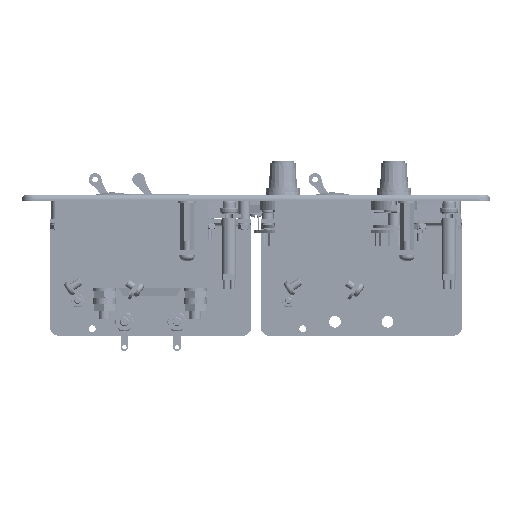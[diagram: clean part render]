
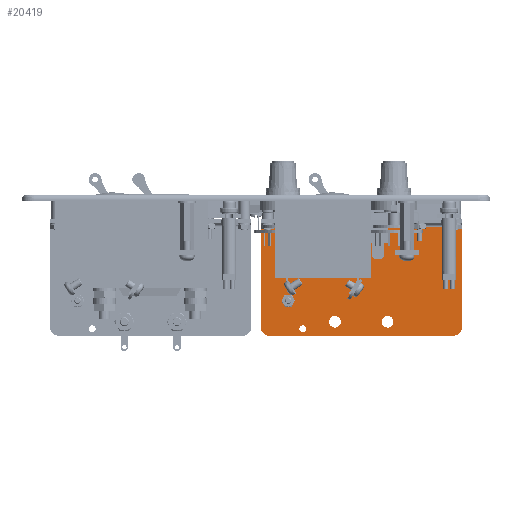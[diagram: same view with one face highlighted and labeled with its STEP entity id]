
A CAD part, front view. The second image highlights one B-rep face of the part: STEP entity #20419.
In plain terms, the highlighted planar face has unit normal (0, -1, 0) as drawn and (0, 1, 0) by its records, which use the part's own axes.
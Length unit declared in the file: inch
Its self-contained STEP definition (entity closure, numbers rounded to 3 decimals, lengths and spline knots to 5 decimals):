
#20061=CARTESIAN_POINT('',(-1.17222,-1.53204,3.3685));
#20062=VERTEX_POINT('',#20061);
#20078=CARTESIAN_POINT('',(-1.17222,-1.53204,3.5155));
#20079=VERTEX_POINT('',#20078);
#20086=CARTESIAN_POINT('',(-1.17222,-1.53204,3.442));
#20087=DIRECTION('',(0.0,-1.0,0.0));
#20088=DIRECTION('',(0.0,0.0,-1.0));
#20089=AXIS2_PLACEMENT_3D('',#20086,#20087,#20088);
#20090=CIRCLE('',#20089,0.0735);
#20091=EDGE_CURVE('',#20062,#20079,#20090,.T.);
#20103=CARTESIAN_POINT('',(-1.17222,-1.53204,1.6185));
#20104=VERTEX_POINT('',#20103);
#20120=CARTESIAN_POINT('',(-1.17222,-1.53204,1.7655));
#20121=VERTEX_POINT('',#20120);
#20128=CARTESIAN_POINT('',(-1.17222,-1.53204,1.692));
#20129=DIRECTION('',(0.0,-1.0,0.0));
#20130=DIRECTION('',(0.0,0.0,-1.0));
#20131=AXIS2_PLACEMENT_3D('',#20128,#20129,#20130);
#20132=CIRCLE('',#20131,0.0735);
#20133=EDGE_CURVE('',#20104,#20121,#20132,.T.);
#20145=CARTESIAN_POINT('',(-1.48422,-1.53204,2.7575));
#20146=VERTEX_POINT('',#20145);
#20162=CARTESIAN_POINT('',(-1.48422,-1.53204,2.9265));
#20163=VERTEX_POINT('',#20162);
#20170=CARTESIAN_POINT('',(-1.48422,-1.53204,2.842));
#20171=DIRECTION('',(0.0,-1.0,0.0));
#20172=DIRECTION('',(0.0,0.0,-1.0));
#20173=AXIS2_PLACEMENT_3D('',#20170,#20171,#20172);
#20174=CIRCLE('',#20173,0.0845);
#20175=EDGE_CURVE('',#20146,#20163,#20174,.T.);
#20187=CARTESIAN_POINT('',(-0.48522,-1.53204,3.167));
#20188=VERTEX_POINT('',#20187);
#20204=CARTESIAN_POINT('',(-0.48522,-1.53204,3.417));
#20205=VERTEX_POINT('',#20204);
#20212=CARTESIAN_POINT('',(-0.48522,-1.53204,3.292));
#20213=DIRECTION('',(0.0,-1.0,0.0));
#20214=DIRECTION('',(0.0,0.0,-1.0));
#20215=AXIS2_PLACEMENT_3D('',#20212,#20213,#20214);
#20216=CIRCLE('',#20215,0.125);
#20217=EDGE_CURVE('',#20188,#20205,#20216,.T.);
#20229=CARTESIAN_POINT('',(0.63978,-1.53204,3.167));
#20230=VERTEX_POINT('',#20229);
#20246=CARTESIAN_POINT('',(0.63978,-1.53204,3.417));
#20247=VERTEX_POINT('',#20246);
#20254=CARTESIAN_POINT('',(0.63978,-1.53204,3.292));
#20255=DIRECTION('',(0.0,-1.0,0.0));
#20256=DIRECTION('',(0.0,0.0,-1.0));
#20257=AXIS2_PLACEMENT_3D('',#20254,#20255,#20256);
#20258=CIRCLE('',#20257,0.125);
#20259=EDGE_CURVE('',#20230,#20247,#20258,.T.);
#20269=CARTESIAN_POINT('',(-1.88472,-1.53204,3.592));
#20270=VERTEX_POINT('',#20269);
#20271=CARTESIAN_POINT('',(-2.07222,-1.53204,3.4045));
#20272=VERTEX_POINT('',#20271);
#20273=CARTESIAN_POINT('',(-1.88472,-1.53204,3.4045));
#20274=DIRECTION('',(0.0,-1.,0.0));
#20275=DIRECTION('',(-0.707,0.0,0.707));
#20276=AXIS2_PLACEMENT_3D('',#20273,#20274,#20275);
#20277=CIRCLE('',#20276,0.1875);
#20278=EDGE_CURVE('',#20270,#20272,#20277,.T.);
#20306=CARTESIAN_POINT('',(0.07778,-1.53204,2.342));
#20307=DIRECTION('',(0.0,1.0,0.0));
#20308=DIRECTION('',(0.0,0.0,1.0));
#20309=AXIS2_PLACEMENT_3D('',#20306,#20307,#20308);
#20310=PLANE('',#20309);
#20311=ORIENTED_EDGE('',*,*,#20278,.F.);
#20312=CARTESIAN_POINT('',(2.04028,-1.53204,3.592));
#20313=VERTEX_POINT('',#20312);
#20314=CARTESIAN_POINT('',(2.04028,-1.53204,3.592));
#20315=DIRECTION('',(-1.0,0.0,0.0));
#20316=VECTOR('',#20315,3.925);
#20317=LINE('',#20314,#20316);
#20318=EDGE_CURVE('',#20313,#20270,#20317,.T.);
#20319=ORIENTED_EDGE('',*,*,#20318,.F.);
#20320=CARTESIAN_POINT('',(2.22778,-1.53204,3.4045));
#20321=VERTEX_POINT('',#20320);
#20322=CARTESIAN_POINT('',(2.04028,-1.53204,3.4045));
#20323=DIRECTION('',(0.0,-1.,0.0));
#20324=DIRECTION('',(0.707,0.0,0.707));
#20325=AXIS2_PLACEMENT_3D('',#20322,#20323,#20324);
#20326=CIRCLE('',#20325,0.1875);
#20327=EDGE_CURVE('',#20321,#20313,#20326,.T.);
#20328=ORIENTED_EDGE('',*,*,#20327,.F.);
#20329=CARTESIAN_POINT('',(2.22778,-1.53204,1.272));
#20330=VERTEX_POINT('',#20329);
#20331=CARTESIAN_POINT('',(2.22778,-1.53204,1.272));
#20332=DIRECTION('',(0.0,0.0,1.0));
#20333=VECTOR('',#20332,2.1325);
#20334=LINE('',#20331,#20333);
#20335=EDGE_CURVE('',#20330,#20321,#20334,.T.);
#20336=ORIENTED_EDGE('',*,*,#20335,.F.);
#20337=CARTESIAN_POINT('',(0.70028,-1.53204,1.272));
#20338=VERTEX_POINT('',#20337);
#20339=CARTESIAN_POINT('',(0.70028,-1.53204,1.272));
#20340=DIRECTION('',(1.0,0.0,0.0));
#20341=VECTOR('',#20340,1.5275);
#20342=LINE('',#20339,#20341);
#20343=EDGE_CURVE('',#20338,#20330,#20342,.T.);
#20344=ORIENTED_EDGE('',*,*,#20343,.F.);
#20345=CARTESIAN_POINT('',(-0.59472,-1.53204,1.272));
#20346=VERTEX_POINT('',#20345);
#20347=CARTESIAN_POINT('',(0.70028,-1.53204,1.272));
#20348=DIRECTION('',(-1.0,0.0,0.0));
#20349=VECTOR('',#20348,1.295);
#20350=LINE('',#20347,#20349);
#20351=EDGE_CURVE('',#20338,#20346,#20350,.T.);
#20352=ORIENTED_EDGE('',*,*,#20351,.T.);
#20353=CARTESIAN_POINT('',(-2.07222,-1.53204,1.272));
#20354=VERTEX_POINT('',#20353);
#20355=CARTESIAN_POINT('',(-2.07222,-1.53204,1.272));
#20356=DIRECTION('',(1.0,0.0,0.0));
#20357=VECTOR('',#20356,1.4775);
#20358=LINE('',#20355,#20357);
#20359=EDGE_CURVE('',#20354,#20346,#20358,.T.);
#20360=ORIENTED_EDGE('',*,*,#20359,.F.);
#20361=CARTESIAN_POINT('',(-2.07222,-1.53204,3.4045));
#20362=DIRECTION('',(0.0,0.0,-1.0));
#20363=VECTOR('',#20362,2.1325);
#20364=LINE('',#20361,#20363);
#20365=EDGE_CURVE('',#20272,#20354,#20364,.T.);
#20366=ORIENTED_EDGE('',*,*,#20365,.F.);
#20367=EDGE_LOOP('',(#20311,#20319,#20328,#20336,#20344,#20352,#20360,#20366));
#20368=FACE_OUTER_BOUND('',#20367,.T.);
#20369=ORIENTED_EDGE('',*,*,#20259,.T.);
#20370=CARTESIAN_POINT('',(0.63978,-1.53204,3.292));
#20371=DIRECTION('',(0.0,-1.0,0.0));
#20372=DIRECTION('',(0.0,0.0,-1.0));
#20373=AXIS2_PLACEMENT_3D('',#20370,#20371,#20372);
#20374=CIRCLE('',#20373,0.125);
#20375=EDGE_CURVE('',#20247,#20230,#20374,.T.);
#20376=ORIENTED_EDGE('',*,*,#20375,.T.);
#20377=EDGE_LOOP('',(#20369,#20376));
#20378=FACE_BOUND('',#20377,.T.);
#20379=ORIENTED_EDGE('',*,*,#20217,.T.);
#20380=CARTESIAN_POINT('',(-0.48522,-1.53204,3.292));
#20381=DIRECTION('',(0.0,-1.0,0.0));
#20382=DIRECTION('',(0.0,0.0,-1.0));
#20383=AXIS2_PLACEMENT_3D('',#20380,#20381,#20382);
#20384=CIRCLE('',#20383,0.125);
#20385=EDGE_CURVE('',#20205,#20188,#20384,.T.);
#20386=ORIENTED_EDGE('',*,*,#20385,.T.);
#20387=EDGE_LOOP('',(#20379,#20386));
#20388=FACE_BOUND('',#20387,.T.);
#20389=ORIENTED_EDGE('',*,*,#20175,.T.);
#20390=CARTESIAN_POINT('',(-1.48422,-1.53204,2.842));
#20391=DIRECTION('',(0.0,-1.0,0.0));
#20392=DIRECTION('',(0.0,0.0,-1.0));
#20393=AXIS2_PLACEMENT_3D('',#20390,#20391,#20392);
#20394=CIRCLE('',#20393,0.0845);
#20395=EDGE_CURVE('',#20163,#20146,#20394,.T.);
#20396=ORIENTED_EDGE('',*,*,#20395,.T.);
#20397=EDGE_LOOP('',(#20389,#20396));
#20398=FACE_BOUND('',#20397,.T.);
#20399=ORIENTED_EDGE('',*,*,#20133,.T.);
#20400=CARTESIAN_POINT('',(-1.17222,-1.53204,1.692));
#20401=DIRECTION('',(0.0,-1.0,0.0));
#20402=DIRECTION('',(0.0,0.0,-1.0));
#20403=AXIS2_PLACEMENT_3D('',#20400,#20401,#20402);
#20404=CIRCLE('',#20403,0.0735);
#20405=EDGE_CURVE('',#20121,#20104,#20404,.T.);
#20406=ORIENTED_EDGE('',*,*,#20405,.T.);
#20407=EDGE_LOOP('',(#20399,#20406));
#20408=FACE_BOUND('',#20407,.T.);
#20409=ORIENTED_EDGE('',*,*,#20091,.T.);
#20410=CARTESIAN_POINT('',(-1.17222,-1.53204,3.442));
#20411=DIRECTION('',(0.0,-1.0,0.0));
#20412=DIRECTION('',(0.0,0.0,-1.0));
#20413=AXIS2_PLACEMENT_3D('',#20410,#20411,#20412);
#20414=CIRCLE('',#20413,0.0735);
#20415=EDGE_CURVE('',#20079,#20062,#20414,.T.);
#20416=ORIENTED_EDGE('',*,*,#20415,.T.);
#20417=EDGE_LOOP('',(#20409,#20416));
#20418=FACE_BOUND('',#20417,.T.);
#20419=ADVANCED_FACE('',(#20368,#20378,#20388,#20398,#20408,#20418),#20310,.T.);
